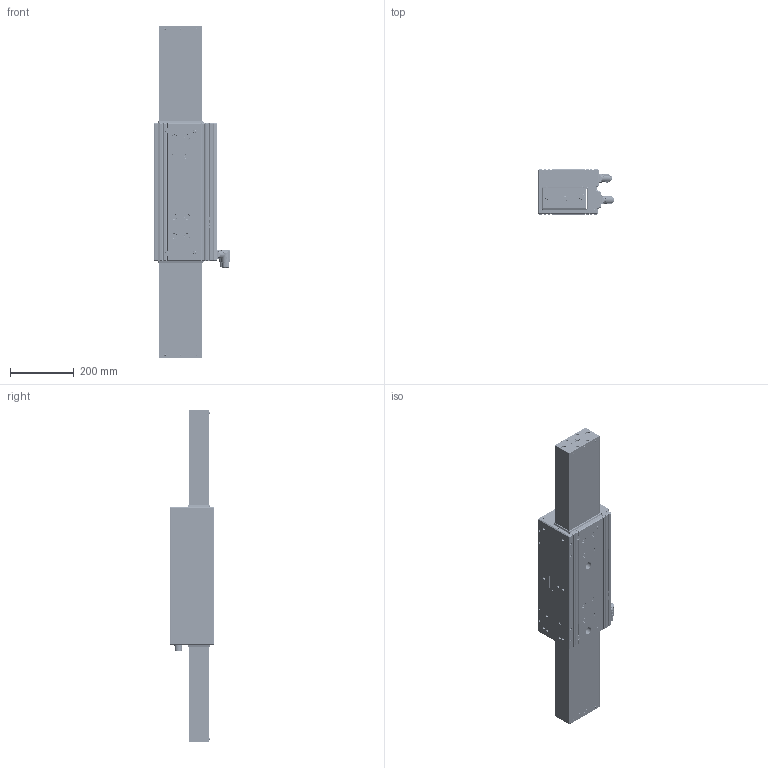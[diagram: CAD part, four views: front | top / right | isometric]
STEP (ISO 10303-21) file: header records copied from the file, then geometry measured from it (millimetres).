
FILE_DESCRIPTION((''),'2;1');
FILE_NAME('LDAT-100-DUMMY_ASM','2012-05-17T',('als'),('Rockwell Automation'),'PRO/ENGINEER BY PARAMETRIC TECHNOLOGY CORPORATION, 2007390','PRO/ENGINEER BY PARAMETRIC TECHNOLOGY CORPORATION, 2007390','');
FILE_SCHEMA(('CONFIG_CONTROL_DESIGN'));
Length unit declared in the file: millimetre
Products named in the file (32): B627631-100-A_AF2; D627756-100-300_ASM; D627768-100; D627769-100; B627834; D627739-100; LDAT-100-SLIDER-DUMMY-1000; B627686-100; A805843-1; A805843-2; A805843-4; A805843-3_ASM; A805843-5; A805843-6; A805843_ASM; A805844-1; A805844-2; A805844-3; A805844_ASM; B805901-E1-NT_ASM; DIN7991-12_9-8X22-ZP; 627795; 627815; DIN912-3X8; DIN912-2_5X12; 627849; DIN7991-12_9-5X30-ZP; DIN912-12X50; DIN912-10X16; B627690-100; ISO7380-3X6; LDAT-100-DUMMY_ASM
Assembly tree (93 placements, depth 4):
  LDAT-100-DUMMY_ASM
    D627756-100-300_ASM
      B627631-100-A_AF2
    D627768-100
    D627769-100
    B627834
    D627739-100  x2
    LDAT-100-SLIDER-DUMMY-1000
    B627686-100  x2
    A805843_ASM
      A805843-1
      A805843-2
      A805843-3_ASM
        A805843-4
      A805843-5  x4
      A805843-6  x2
    B805901-E1-NT_ASM
      A805844_ASM
        A805844-1
        A805844-2
        A805844-3
    DIN7991-12_9-8X22-ZP  x8
    627795  x4
    627815  x3
    DIN912-3X8  x14
    DIN912-2_5X12  x8
    627849  x6
    DIN7991-12_9-5X30-ZP  x10
    DIN912-12X50  x4
    DIN912-10X16  x2
    B627690-100  x2
    ISO7380-3X6  x6
Bounding box: 239.05 x 140 x 1038.1 mm (x, y, z)
Volume: 13311843.9 mm3; surface area: 1362799.6 mm2
Topology: 88 solids, 103 shells, 6381 faces, 17549 edges, 11463 vertices
Faces by surface type: cylinder 2550, plane 1746, bspline 834, cone 587, torus 542, sphere 117, extrusion 3, revolution 2
Entity records: 237871 total; most frequent: CARTESIAN_POINT 119887, ORIENTED_EDGE 26826, DIRECTION 21967, EDGE_CURVE 13438, AXIS2_PLACEMENT_3D 8957, VERTEX_POINT 8931, EDGE_LOOP 5091, CIRCLE 4919
